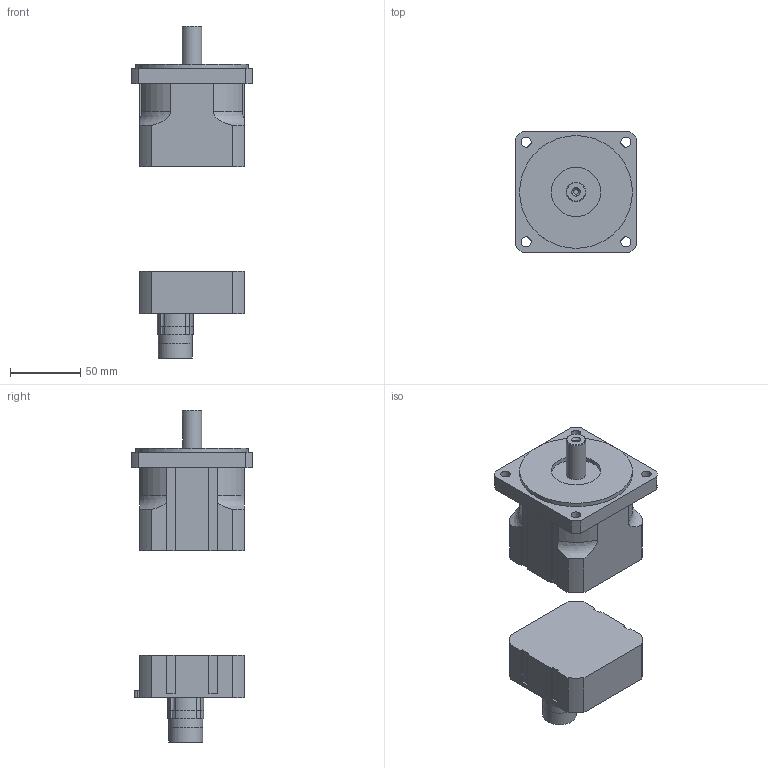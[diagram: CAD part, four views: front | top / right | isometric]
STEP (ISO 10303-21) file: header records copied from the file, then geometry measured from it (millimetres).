
FILE_DESCRIPTION(/* description */ ('Alibre Inc.'),/* implementation_level */ '2;1');
FILE_NAME(/* name */ 'export0',/* time_stamp */ '2011-01-14T11:56:28+01:00',/* author */ (''),/* organization */ (''),/* preprocessor_version */ 'ST-DEVELOPER v12',/* originating_system */ 'Alibre',/* authorisation */ '');
FILE_SCHEMA (('ALIBRE_SCHEMA','CONFIG_CONTROL_DESIGN'));
Length unit declared in the file: millimetre
Products named in the file (6): ID_1
Bounding box: 86 x 86 x 235.5 mm (x, y, z)
Volume: 561619.2 mm3; surface area: 68853 mm2
Topology: 5 solids, 5 shells, 170 faces, 439 edges, 287 vertices
Faces by surface type: plane 81, cylinder 59, bspline 25, torus 4, cone 1
Full cylindrical faces by diameter (mm): 2.7 x8, 14 x1, 20 x2, 24 x2, 35 x1, 80 x1
Entity records: 15600 total; most frequent: CARTESIAN_POINT 3709, DIRECTION 1774, ORIENTED_EDGE 1712, EDGE_CURVE 856, AXIS2_PLACEMENT_3D 690, VERTEX_POINT 592, VECTOR 554, EDGE_LOOP 510
